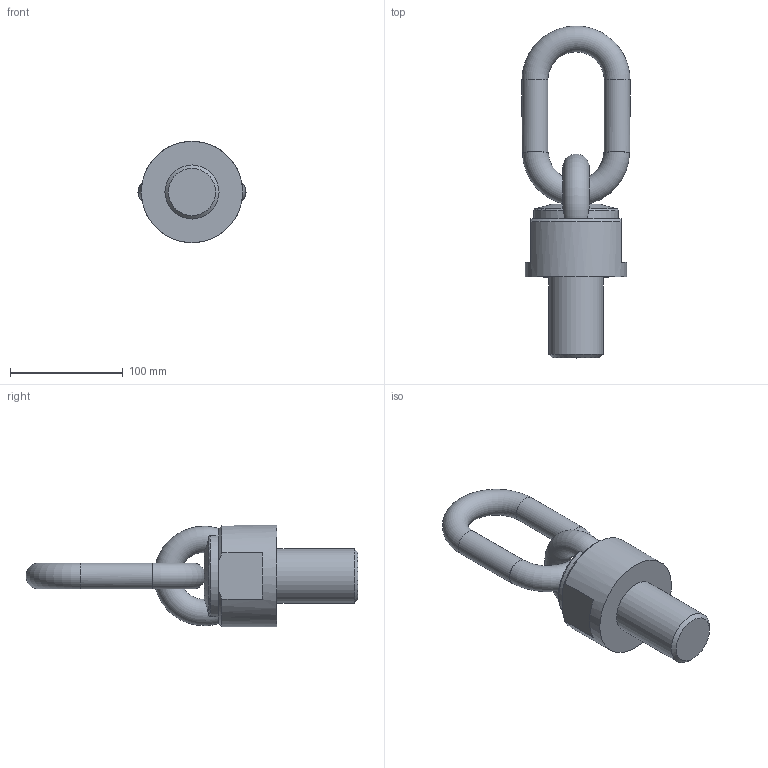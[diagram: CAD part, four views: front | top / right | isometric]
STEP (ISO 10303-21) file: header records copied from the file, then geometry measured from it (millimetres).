
FILE_DESCRIPTION( ( 'STEP AP203' ), '1' );
FILE_NAME( 'p:/temp/worker_24/temp/app_54_0201906261456491660720310e898ce_000000_00_00_000000/format_4/C800X1254872.stp', '2019-06-26T12:56:52', ( '' ), ( '' ), ' ', 'PARTsolutions', ' ' );
FILE_SCHEMA( ( 'CONFIG_CONTROL_DESIGN' ) );
Length unit declared in the file: millimetre
Products named in the file (1): _C800X1254872
Bounding box: 96 x 294.98 x 90 mm (x, y, z)
Volume: 692633.6 mm3; surface area: 72043.7 mm2
Topology: 1 solids, 1 shells, 28 faces, 70 edges, 44 vertices
Faces by surface type: plane 12, cylinder 6, torus 5, cone 5
Full cylindrical faces by diameter (mm): 23 x2, 48 x1, 90 x1
Entity records: 1188 total; most frequent: CARTESIAN_POINT 538, DIRECTION 122, ORIENTED_EDGE 116, EDGE_CURVE 58, AXIS2_PLACEMENT_3D 57, EDGE_LOOP 42, VERTEX_POINT 41, FACE_OUTER_BOUND 35
